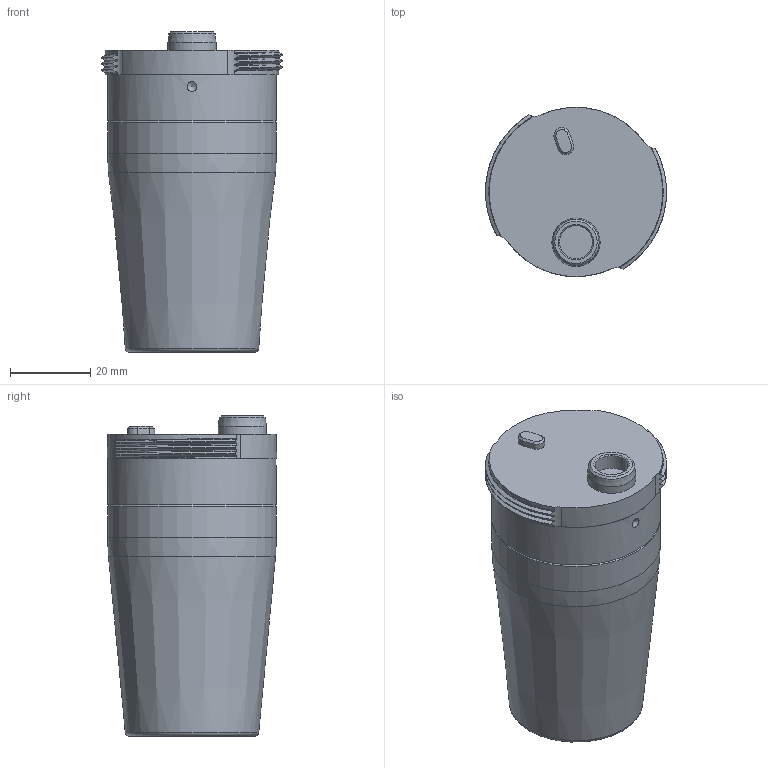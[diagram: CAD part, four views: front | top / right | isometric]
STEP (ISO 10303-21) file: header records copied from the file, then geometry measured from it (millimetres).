
FILE_DESCRIPTION(/* description */ (''),/* implementation_level */ '2;1');
FILE_NAME(/* name */ 'C:\Users\Uffe Safeldt\Dropbox\SoftBox_Documents\Inventor\QuickTool\CAD\MG-30e.stp',/* time_stamp */ '2023-11-13T15:36:54+01:00',/* author */ ('Uffe Safeldt'),/* organization */ (''),/* preprocessor_version */ 'ST-DEVELOPER v15.2',/* originating_system */ 'Autodesk Inventor 2014',/* authorisation */ '');
FILE_SCHEMA (('CONFIG_CONTROL_DESIGN'));
Length unit declared in the file: millimetre
Products named in the file (1): MG-30e
Bounding box: 45 x 42.08 x 79.6 mm (x, y, z)
Volume: 91634.2 mm3; surface area: 12172.5 mm2
Topology: 1 solids, 2 shells, 71 faces, 175 edges, 116 vertices
Faces by surface type: cylinder 25, bspline 21, plane 12, cone 12, torus 1
Full cylindrical faces by diameter (mm): 8.2 x1, 12 x1, 30 x1, 42 x2
Entity records: 3394 total; most frequent: CARTESIAN_POINT 1822, ORIENTED_EDGE 312, DIRECTION 240, EDGE_CURVE 156, VERTEX_POINT 111, AXIS2_PLACEMENT_3D 104, EDGE_LOOP 93, STYLED_ITEM 71
